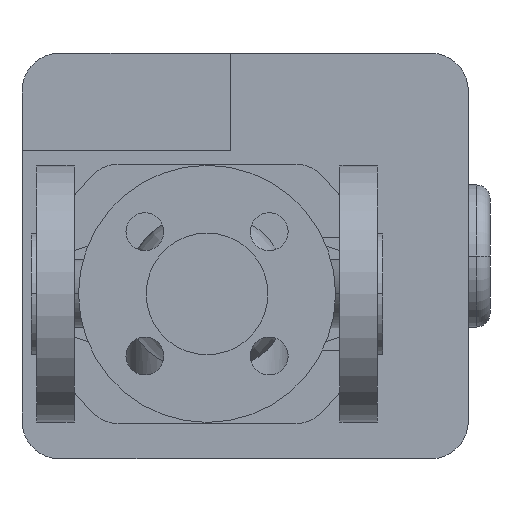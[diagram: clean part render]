
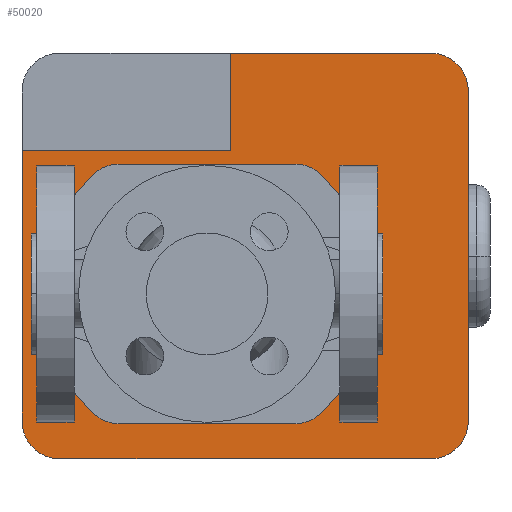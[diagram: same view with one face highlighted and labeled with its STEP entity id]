
A CAD part, front view. The second image highlights one B-rep face of the part: STEP entity #50020.
In plain terms, the highlighted planar face has unit normal (0, -1, 0).
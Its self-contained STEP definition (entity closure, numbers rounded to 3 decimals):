
#41760=CARTESIAN_POINT('',(124.96,313.,11.216));
#41770=VERTEX_POINT('',#41760);
#41800=CARTESIAN_POINT('',(115.,313.,0.));
#41810=DIRECTION('',(0.,1.,0.));
#41820=DIRECTION('',(0.,0.,1.));
#41830=AXIS2_PLACEMENT_3D('',#41800,#41810,#41820);
#41840=CIRCLE('',#41830,15.);
#41850=CARTESIAN_POINT('',(124.96,313.,-11.216));
#41860=VERTEX_POINT('',#41850);
#41870=EDGE_CURVE('',#41770,#41860,#41840,.T.);
#44590=CARTESIAN_POINT('',(107.116,313.,44.128));
#44600=VERTEX_POINT('',#44590);
#44630=CARTESIAN_POINT('',(65.,313.,0.));
#44640=DIRECTION('',(0.,1.,0.));
#44650=DIRECTION('',(0.69,0.,0.723));
#44660=AXIS2_PLACEMENT_3D('',#44630,#44640,#44650);
#44670=CIRCLE('',#44660,61.);
#44680=EDGE_CURVE('',#44600,#41770,#44670,.T.);
#45070=CARTESIAN_POINT('',(5.04,313.,-11.216));
#45080=VERTEX_POINT('',#45070);
#45110=CARTESIAN_POINT('',(15.,313.,0.));
#45120=DIRECTION('',(0.,1.,0.));
#45130=DIRECTION('',(0.,0.,-1.));
#45140=AXIS2_PLACEMENT_3D('',#45110,#45120,#45130);
#45150=CIRCLE('',#45140,15.);
#45160=CARTESIAN_POINT('',(5.04,313.,11.216));
#45170=VERTEX_POINT('',#45160);
#45180=EDGE_CURVE('',#45080,#45170,#45150,.T.);
#46170=CARTESIAN_POINT('',(22.884,313.,-44.128));
#46180=VERTEX_POINT('',#46170);
#46210=CARTESIAN_POINT('',(65.,313.,0.));
#46220=DIRECTION('',(0.,1.,0.));
#46230=DIRECTION('',(-0.69,0.,-0.723));
#46240=AXIS2_PLACEMENT_3D('',#46210,#46220,#46230);
#46250=CIRCLE('',#46240,61.);
#46260=EDGE_CURVE('',#46180,#45080,#46250,.T.);
#48480=CARTESIAN_POINT('',(65.,313.,0.));
#48490=DIRECTION('',(0.,1.,0.));
#48500=DIRECTION('',(0.,0.,1.));
#48510=AXIS2_PLACEMENT_3D('',#48480,#48490,#48500);
#48520=PLANE('',#48510);
#48530=ORIENTED_EDGE('',*,*,#44680,.T.);
#48540=CARTESIAN_POINT('',(97.45,313.,34.));
#48550=DIRECTION('',(0.,1.,0.));
#48560=DIRECTION('',(0.,0.,1.));
#48570=AXIS2_PLACEMENT_3D('',#48540,#48550,#48560);
#48580=CIRCLE('',#48570,14.);
#48590=CARTESIAN_POINT('',(97.45,313.,48.));
#48600=VERTEX_POINT('',#48590);
#48610=EDGE_CURVE('',#48600,#44600,#48580,.T.);
#48620=ORIENTED_EDGE('',*,*,#48610,.T.);
#48630=CARTESIAN_POINT('',(48.775,313.,48.));
#48640=DIRECTION('',(1.,0.,0.));
#48650=VECTOR('',#48640,1.);
#48660=LINE('',#48630,#48650);
#48670=CARTESIAN_POINT('',(32.55,313.,48.));
#48680=VERTEX_POINT('',#48670);
#48690=EDGE_CURVE('',#48680,#48600,#48660,.T.);
#48700=ORIENTED_EDGE('',*,*,#48690,.T.);
#48710=CARTESIAN_POINT('',(32.55,313.,34.));
#48720=DIRECTION('',(0.,1.,0.));
#48730=DIRECTION('',(-0.69,0.,0.723));
#48740=AXIS2_PLACEMENT_3D('',#48710,#48720,#48730);
#48750=CIRCLE('',#48740,14.);
#48760=CARTESIAN_POINT('',(22.884,313.,44.128));
#48770=VERTEX_POINT('',#48760);
#48780=EDGE_CURVE('',#48770,#48680,#48750,.T.);
#48790=ORIENTED_EDGE('',*,*,#48780,.T.);
#48800=CARTESIAN_POINT('',(65.,313.,0.));
#48810=DIRECTION('',(0.,1.,0.));
#48820=DIRECTION('',(-0.69,0.,-0.723));
#48830=AXIS2_PLACEMENT_3D('',#48800,#48810,#48820);
#48840=CIRCLE('',#48830,61.);
#48850=EDGE_CURVE('',#45170,#48770,#48840,.T.);
#48860=ORIENTED_EDGE('',*,*,#48850,.T.);
#48870=ORIENTED_EDGE('',*,*,#45180,.T.);
#48880=ORIENTED_EDGE('',*,*,#46260,.T.);
#48890=CARTESIAN_POINT('',(32.55,313.,-34.));
#48900=DIRECTION('',(0.,1.,0.));
#48910=DIRECTION('',(0.,0.,-1.));
#48920=AXIS2_PLACEMENT_3D('',#48890,#48900,#48910);
#48930=CIRCLE('',#48920,14.);
#48940=CARTESIAN_POINT('',(32.55,313.,-48.));
#48950=VERTEX_POINT('',#48940);
#48960=EDGE_CURVE('',#48950,#46180,#48930,.T.);
#48970=ORIENTED_EDGE('',*,*,#48960,.T.);
#48980=CARTESIAN_POINT('',(81.225,313.,-48.));
#48990=DIRECTION('',(-1.,0.,0.));
#49000=VECTOR('',#48990,1.);
#49010=LINE('',#48980,#49000);
#49020=CARTESIAN_POINT('',(97.45,313.,-48.));
#49030=VERTEX_POINT('',#49020);
#49040=EDGE_CURVE('',#49030,#48950,#49010,.T.);
#49050=ORIENTED_EDGE('',*,*,#49040,.T.);
#49060=CARTESIAN_POINT('',(97.45,313.,-34.));
#49070=DIRECTION('',(0.,1.,0.));
#49080=DIRECTION('',(0.69,0.,-0.723));
#49090=AXIS2_PLACEMENT_3D('',#49060,#49070,#49080);
#49100=CIRCLE('',#49090,14.);
#49110=CARTESIAN_POINT('',(107.116,313.,-44.128));
#49120=VERTEX_POINT('',#49110);
#49130=EDGE_CURVE('',#49120,#49030,#49100,.T.);
#49140=ORIENTED_EDGE('',*,*,#49130,.T.);
#49150=CARTESIAN_POINT('',(65.,313.,0.));
#49160=DIRECTION('',(0.,1.,0.));
#49170=DIRECTION('',(0.69,0.,0.723));
#49180=AXIS2_PLACEMENT_3D('',#49150,#49160,#49170);
#49190=CIRCLE('',#49180,61.);
#49200=EDGE_CURVE('',#41860,#49120,#49190,.T.);
#49210=ORIENTED_EDGE('',*,*,#49200,.T.);
#49220=ORIENTED_EDGE('',*,*,#41870,.T.);
#49230=EDGE_LOOP('',(#49220,#49210,#49140,#49050,#48970,#48880,#48870,
#48860,#48790,#48700,#48620,#48530));
#49240=FACE_BOUND('',#49230,.T.);
#49250=CARTESIAN_POINT('',(73.6,313.,26.5));
#49260=DIRECTION('',(0.,0.,-1.));
#49270=VECTOR('',#49260,1.);
#49280=LINE('',#49250,#49270);
#49290=CARTESIAN_POINT('',(73.6,313.,89.));
#49300=VERTEX_POINT('',#49290);
#49310=CARTESIAN_POINT('',(73.6,313.,53.));
#49320=VERTEX_POINT('',#49310);
#49330=EDGE_CURVE('',#49300,#49320,#49280,.T.);
#49340=ORIENTED_EDGE('',*,*,#49330,.T.);
#49350=CARTESIAN_POINT('',(10.6,313.,89.));
#49360=DIRECTION('',(1.,0.,0.));
#49370=VECTOR('',#49360,1.);
#49380=LINE('',#49350,#49370);
#49390=CARTESIAN_POINT('',(147.6,313.,89.));
#49400=VERTEX_POINT('',#49390);
#49410=EDGE_CURVE('',#49300,#49400,#49380,.T.);
#49420=ORIENTED_EDGE('',*,*,#49410,.F.);
#49430=CARTESIAN_POINT('',(147.6,313.,75.));
#49440=DIRECTION('',(0.,1.,0.));
#49450=DIRECTION('',(0.,0.,1.));
#49460=AXIS2_PLACEMENT_3D('',#49430,#49440,#49450);
#49470=CIRCLE('',#49460,14.);
#49480=CARTESIAN_POINT('',(161.6,313.,75.));
#49490=VERTEX_POINT('',#49480);
#49500=EDGE_CURVE('',#49400,#49490,#49470,.T.);
#49510=ORIENTED_EDGE('',*,*,#49500,.F.);
#49520=CARTESIAN_POINT('',(161.6,313.,75.));
#49530=DIRECTION('',(0.,0.,-1.));
#49540=VECTOR('',#49530,1.);
#49550=LINE('',#49520,#49540);
#49560=CARTESIAN_POINT('',(161.6,313.,-47.));
#49570=VERTEX_POINT('',#49560);
#49580=EDGE_CURVE('',#49490,#49570,#49550,.T.);
#49590=ORIENTED_EDGE('',*,*,#49580,.F.);
#49600=CARTESIAN_POINT('',(147.6,313.,-47.));
#49610=DIRECTION('',(0.,1.,0.));
#49620=DIRECTION('',(1.,0.,0.));
#49630=AXIS2_PLACEMENT_3D('',#49600,#49610,#49620);
#49640=CIRCLE('',#49630,14.);
#49650=CARTESIAN_POINT('',(147.6,313.,-61.));
#49660=VERTEX_POINT('',#49650);
#49670=EDGE_CURVE('',#49570,#49660,#49640,.T.);
#49680=ORIENTED_EDGE('',*,*,#49670,.F.);
#49690=CARTESIAN_POINT('',(147.6,313.,-61.));
#49700=DIRECTION('',(-1.,0.,0.));
#49710=VECTOR('',#49700,1.);
#49720=LINE('',#49690,#49710);
#49730=CARTESIAN_POINT('',(10.6,313.,-61.));
#49740=VERTEX_POINT('',#49730);
#49750=EDGE_CURVE('',#49660,#49740,#49720,.T.);
#49760=ORIENTED_EDGE('',*,*,#49750,.F.);
#49770=CARTESIAN_POINT('',(10.6,313.,-47.));
#49780=DIRECTION('',(0.,1.,0.));
#49790=DIRECTION('',(0.,0.,-1.));
#49800=AXIS2_PLACEMENT_3D('',#49770,#49780,#49790);
#49810=CIRCLE('',#49800,14.);
#49820=CARTESIAN_POINT('',(-3.4,313.,-47.));
#49830=VERTEX_POINT('',#49820);
#49840=EDGE_CURVE('',#49740,#49830,#49810,.T.);
#49850=ORIENTED_EDGE('',*,*,#49840,.F.);
#49860=CARTESIAN_POINT('',(-3.4,313.,-47.));
#49870=DIRECTION('',(0.,0.,1.));
#49880=VECTOR('',#49870,1.);
#49890=LINE('',#49860,#49880);
#49900=CARTESIAN_POINT('',(-3.4,313.,53.));
#49910=VERTEX_POINT('',#49900);
#49920=EDGE_CURVE('',#49830,#49910,#49890,.T.);
#49930=ORIENTED_EDGE('',*,*,#49920,.F.);
#49940=CARTESIAN_POINT('',(30.3,313.,53.));
#49950=DIRECTION('',(-1.,0.,0.));
#49960=VECTOR('',#49950,1.);
#49970=LINE('',#49940,#49960);
#49980=EDGE_CURVE('',#49320,#49910,#49970,.T.);
#49990=ORIENTED_EDGE('',*,*,#49980,.T.);
#50000=EDGE_LOOP('',(#49990,#49930,#49850,#49760,#49680,#49590,#49510,
#49420,#49340));
#50010=FACE_OUTER_BOUND('',#50000,.T.);
#50020=ADVANCED_FACE('',(#49240,#50010),#48520,.F.);
